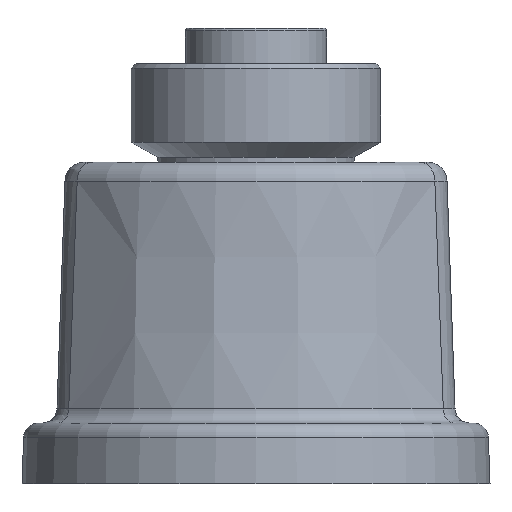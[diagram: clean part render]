
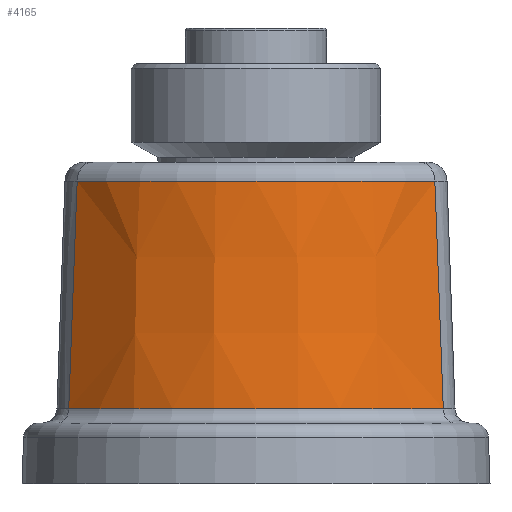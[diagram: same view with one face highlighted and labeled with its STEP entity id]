
A CAD part, front view. The second image highlights one B-rep face of the part: STEP entity #4165.
In plain terms, the highlighted conical face has half-angle 2 degrees and reference radius 25 mm.
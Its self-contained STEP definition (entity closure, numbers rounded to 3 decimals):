
#105=B_SPLINE_CURVE_WITH_KNOTS('',3,(#6379,#6380,#6381,#6382),
 .UNSPECIFIED.,.F.,.F.,(4,4),(-29.59,-6.452),
 .UNSPECIFIED.);
#106=B_SPLINE_CURVE_WITH_KNOTS('',3,(#6385,#6386,#6387,#6388),
 .UNSPECIFIED.,.F.,.F.,(4,4),(6.452,29.59),
 .UNSPECIFIED.);
#625=CONICAL_SURFACE('',#4467,25.,2.);
#849=FACE_OUTER_BOUND('',#1136,.T.);
#1136=EDGE_LOOP('',(#2694,#2695,#2696,#2697));
#1503=CIRCLE('',#4468,24.949);
#1504=CIRCLE('',#4469,24.142);
#1762=VERTEX_POINT('',#6375);
#1763=VERTEX_POINT('',#6376);
#1764=VERTEX_POINT('',#6378);
#1765=VERTEX_POINT('',#6383);
#2132=EDGE_CURVE('',#1762,#1763,#1503,.T.);
#2133=EDGE_CURVE('',#1764,#1762,#105,.T.);
#2134=EDGE_CURVE('',#1765,#1764,#1504,.T.);
#2135=EDGE_CURVE('',#1763,#1765,#106,.T.);
#2694=ORIENTED_EDGE('',*,*,#2132,.F.);
#2695=ORIENTED_EDGE('',*,*,#2133,.F.);
#2696=ORIENTED_EDGE('',*,*,#2134,.F.);
#2697=ORIENTED_EDGE('',*,*,#2135,.F.);
#4165=ADVANCED_FACE('',(#849),#625,.T.);
#4467=AXIS2_PLACEMENT_3D('',#6374,#5038,#5039);
#4468=AXIS2_PLACEMENT_3D('',#6377,#5040,#5041);
#4469=AXIS2_PLACEMENT_3D('',#6384,#5042,#5043);
#5038=DIRECTION('center_axis',(0.,0.,-1.));
#5039=DIRECTION('ref_axis',(1.,0.,0.));
#5040=DIRECTION('center_axis',(0.,0.,-1.));
#5041=DIRECTION('ref_axis',(0.,-1.,0.));
#5042=DIRECTION('center_axis',(0.,0.,1.));
#5043=DIRECTION('ref_axis',(0.,-1.,0.));
#6374=CARTESIAN_POINT('Origin',(0.,-23.12,-10.164));
#6375=CARTESIAN_POINT('',(19.01,-39.279,-8.717));
#6376=CARTESIAN_POINT('',(-19.01,-39.279,-8.717));
#6377=CARTESIAN_POINT('Origin',(0.,-23.12,-8.717));
#6378=CARTESIAN_POINT('',(18.152,-39.036,14.406));
#6379=CARTESIAN_POINT('Ctrl Pts',(18.152,-39.036,14.406));
#6380=CARTESIAN_POINT('Ctrl Pts',(18.439,-39.118,6.698));
#6381=CARTESIAN_POINT('Ctrl Pts',(18.725,-39.199,-1.009));
#6382=CARTESIAN_POINT('Ctrl Pts',(19.01,-39.279,-8.717));
#6383=CARTESIAN_POINT('',(-18.152,-39.036,14.406));
#6384=CARTESIAN_POINT('Origin',(0.,-23.12,14.406));
#6385=CARTESIAN_POINT('Ctrl Pts',(-19.01,-39.279,-8.717));
#6386=CARTESIAN_POINT('Ctrl Pts',(-18.725,-39.199,-1.009));
#6387=CARTESIAN_POINT('Ctrl Pts',(-18.439,-39.118,6.698));
#6388=CARTESIAN_POINT('Ctrl Pts',(-18.152,-39.036,14.406));
